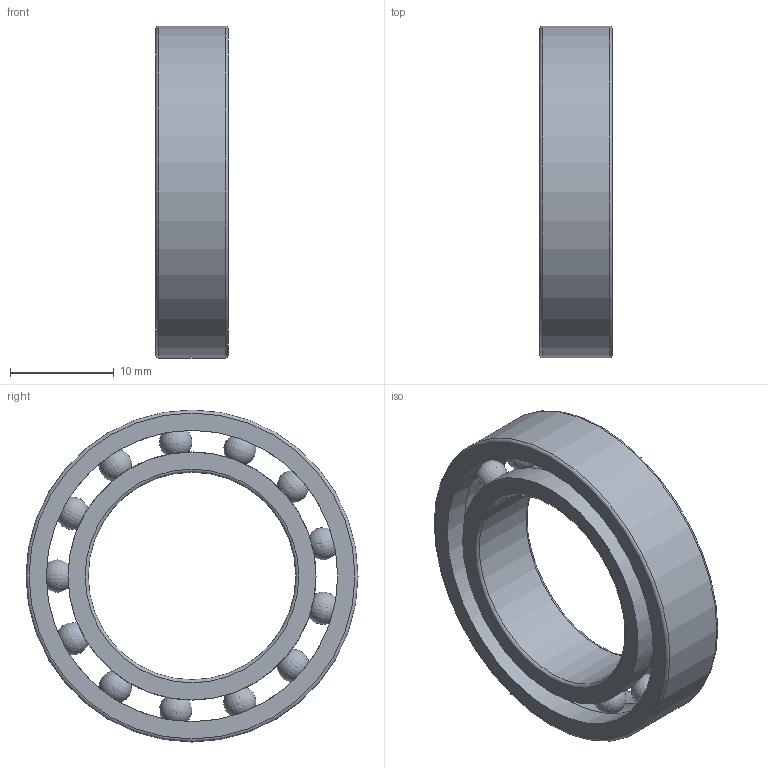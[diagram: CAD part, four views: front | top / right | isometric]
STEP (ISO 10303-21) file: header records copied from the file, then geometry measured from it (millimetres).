
FILE_DESCRIPTION(/* description */ ('깊은 그루부 볼 베어링'),/* implementation_level */ '2;1');
FILE_NAME(/* name */ '',/* time_stamp */ '2025-01-09T17:59:13+09:00',/* author */ ('jhkim'),/* organization */ (''),/* preprocessor_version */ 'ST-DEVELOPER v20',/* originating_system */ 'Autodesk Inventor 2025',/* authorisation */ '');
FILE_SCHEMA (('AUTOMOTIVE_DESIGN { 1 0 10303 214 3 1 1 }'));
Length unit declared in the file: millimetre
Products named in the file (1): 깊은 홈 볼 베어링 
6804
Bounding box: 7 x 32 x 32 mm (x, y, z)
Volume: 2301.9 mm3; surface area: 3329.8 mm2
Topology: 15 solids, 15 shells, 53 faces, 147 edges, 98 vertices
Faces by surface type: torus 30, sphere 13, cylinder 6, plane 4
Full cylindrical faces by diameter (mm): 20 x1, 23.912 x2, 28.088 x2, 32 x1
Entity records: 2047 total; most frequent: DIRECTION 396, CARTESIAN_POINT 351, ORIENTED_EDGE 294, AXIS2_PLACEMENT_3D 195, VERTEX_POINT 150, EDGE_CURVE 147, CIRCLE 141, EDGE_LOOP 83
